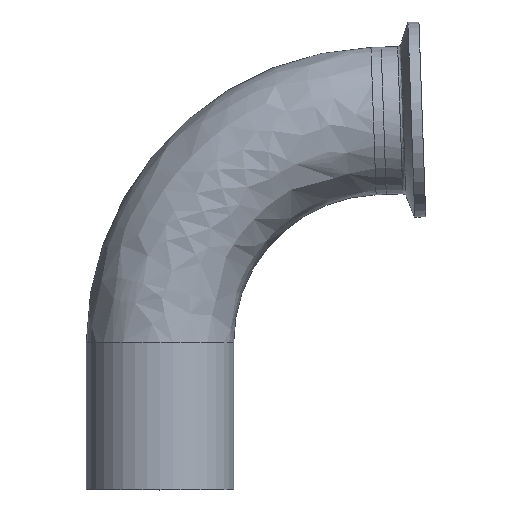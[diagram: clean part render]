
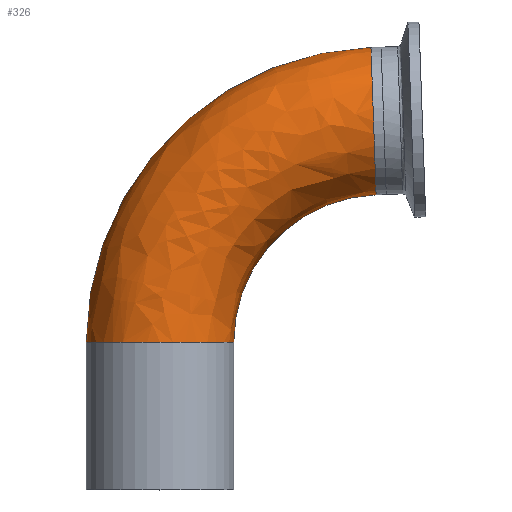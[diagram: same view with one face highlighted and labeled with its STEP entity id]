
A CAD part, top view. The second image highlights one B-rep face of the part: STEP entity #326.
In plain terms, the highlighted free-form (B-spline) face has degree [3, 3] with [4, 4] control points.
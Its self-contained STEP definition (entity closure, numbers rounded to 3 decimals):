
#9 = CARTESIAN_POINT ( 'NONE',  ( -19.05, 38.154, 38.1 ) ) ;
#17 = CARTESIAN_POINT ( 'NONE',  ( -19.05, 81.594, 38.1 ) ) ;
#22 = CARTESIAN_POINT ( 'NONE',  ( 11.126, 112.842, 38.1 ) ) ;
#37 = CARTESIAN_POINT ( 'NONE',  ( 54.539, 114.358, 38.1 ) ) ;
#53 = CARTESIAN_POINT ( 'NONE',  ( 19.05, 38.154, 38.1 ) ) ;
#61 = CARTESIAN_POINT ( 'NONE',  ( 19.05, 59.888, 38.1 ) ) ;
#65 = CARTESIAN_POINT ( 'NONE',  ( 34.148, 75.523, 38.1 ) ) ;
#73 = CARTESIAN_POINT ( 'NONE',  ( 55.869, 76.281, 38.1 ) ) ;
#84 = CARTESIAN_POINT ( 'NONE',  ( 19.05, 38.154, 0. ) ) ;
#91 = CARTESIAN_POINT ( 'NONE',  ( 19.05, 59.888, 0. ) ) ;
#109 = CIRCLE ( 'NONE', #718, 76.25 ) ;
#158 = CARTESIAN_POINT ( 'NONE',  ( 57.2, 38.154, 0. ) ) ;
#161 = CARTESIAN_POINT ( 'NONE',  ( 34.148, 75.523, 0. ) ) ;
#167 = DIRECTION ( 'NONE',  ( -1., 0., 0. ) ) ;
#169 = CARTESIAN_POINT ( 'NONE',  ( 55.869, 76.281, 0. ) ) ;
#176 = DIRECTION ( 'NONE',  ( 0., 0., -1. ) ) ;
#177 = DIRECTION ( 'NONE',  ( 0., 0., -1. ) ) ;
#180 = DIRECTION ( 'NONE',  ( -1., 0., 0. ) ) ;
#181 = CARTESIAN_POINT ( 'NONE',  ( -19.05, 38.154, 0. ) ) ;
#214 = VERTEX_POINT ( 'NONE', #1394 ) ;
#236 = CARTESIAN_POINT ( 'NONE',  ( 57.2, 38.154, 0. ) ) ;
#326 = ADVANCED_FACE ( 'NONE', ( #1033 ), #1595, .T. ) ;
#353 = EDGE_LOOP ( 'NONE', ( #1068, #911, #884, #712 ) ) ;
#433 = CARTESIAN_POINT ( 'NONE',  ( 0., 38.154, 0. ) ) ;
#464 = DIRECTION ( 'NONE',  ( 0., 1., 0. ) ) ;
#466 = CARTESIAN_POINT ( 'NONE',  ( -19.05, 81.594, 0. ) ) ;
#480 = VERTEX_POINT ( 'NONE', #825 ) ;
#541 = DIRECTION ( 'NONE',  ( -1., 0., 0. ) ) ;
#555 = AXIS2_PLACEMENT_3D ( 'NONE', #1531, #1538, #1608 ) ;
#589 = CARTESIAN_POINT ( 'NONE',  ( 54.539, 114.358, 0. ) ) ;
#712 = ORIENTED_EDGE ( 'NONE', *, *, #738, .F. ) ;
#718 = AXIS2_PLACEMENT_3D ( 'NONE', #236, #177, #167 ) ;
#738 = EDGE_CURVE ( 'NONE', #1558, #1473, #109, .T. ) ;
#825 = CARTESIAN_POINT ( 'NONE',  ( 19.05, 38.154, 0. ) ) ;
#853 = CARTESIAN_POINT ( 'NONE',  ( -19.05, 38.154, 0. ) ) ;
#884 = ORIENTED_EDGE ( 'NONE', *, *, #1167, .T. ) ;
#911 = ORIENTED_EDGE ( 'NONE', *, *, #1415, .T. ) ;
#993 = CARTESIAN_POINT ( 'NONE',  ( 54.539, 114.358, 0. ) ) ;
#1033 = FACE_OUTER_BOUND ( 'NONE', #353, .T. ) ;
#1068 = ORIENTED_EDGE ( 'NONE', *, *, #1451, .T. ) ;
#1099 = CIRCLE ( 'NONE', #555, 19.05 ) ;
#1167 = EDGE_CURVE ( 'NONE', #214, #1473, #1099, .T. ) ;
#1181 = CARTESIAN_POINT ( 'NONE',  ( 11.126, 112.842, 0. ) ) ;
#1304 = CIRCLE ( 'NONE', #1706, 19.05 ) ;
#1394 = CARTESIAN_POINT ( 'NONE',  ( 55.869, 76.281, 0. ) ) ;
#1415 = EDGE_CURVE ( 'NONE', #480, #214, #1428, .T. ) ;
#1428 = CIRCLE ( 'NONE', #1547, 38.15 ) ;
#1451 = EDGE_CURVE ( 'NONE', #1558, #480, #1304, .T. ) ;
#1473 = VERTEX_POINT ( 'NONE', #589 ) ;
#1531 = CARTESIAN_POINT ( 'NONE',  ( 55.204, 95.319, 0. ) ) ;
#1538 = DIRECTION ( 'NONE',  ( -0.999, -0.035, 0. ) ) ;
#1547 = AXIS2_PLACEMENT_3D ( 'NONE', #158, #176, #180 ) ;
#1558 = VERTEX_POINT ( 'NONE', #853 ) ;
#1595 =( BOUNDED_SURFACE ( )  B_SPLINE_SURFACE ( 3, 3, ( 
 ( #181, #466, #1181, #993 ),
 ( #9, #17, #22, #37 ),
 ( #53, #61, #65, #73 ),
 ( #84, #91, #161, #169 ) ),
 .UNSPECIFIED., .F., .F., .F. ) 
 B_SPLINE_SURFACE_WITH_KNOTS ( ( 4, 4 ),
 ( 4, 4 ),
 ( 0., 1. ),
 ( 0., 1. ),
 .UNSPECIFIED. ) 
 GEOMETRIC_REPRESENTATION_ITEM ( )  RATIONAL_B_SPLINE_SURFACE ( (
 ( 1., 0.813, 0.813, 1.),
 ( 0.333, 0.271, 0.271, 0.333),
 ( 0.333, 0.271, 0.271, 0.333),
 ( 1., 0.813, 0.813, 1.) ) ) 
 REPRESENTATION_ITEM ( '' )  SURFACE ( )  );
#1608 = DIRECTION ( 'NONE',  ( -0.035, 0.999, 0. ) ) ;
#1706 = AXIS2_PLACEMENT_3D ( 'NONE', #433, #464, #541 ) ;
